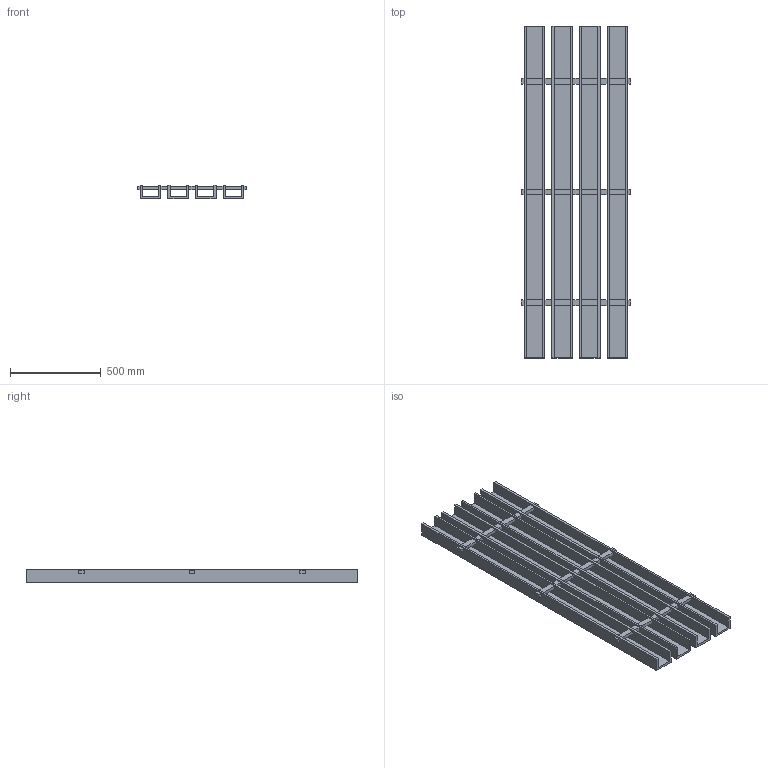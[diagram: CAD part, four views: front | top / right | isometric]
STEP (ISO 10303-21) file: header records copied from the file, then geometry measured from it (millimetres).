
FILE_DESCRIPTION(/* description */ (''),/* implementation_level */ '2;1');
FILE_NAME(/* name */ 'PET GRILLA_4.5x3_6ft',/* time_stamp */ '2024-10-15T14:22:13-05:00',/* author */ (''),/* organization */ (''),/* preprocessor_version */ 'ST-DEVELOPER v19.2',/* originating_system */ 'Rhino 8.4',/* authorisation */ '');
FILE_SCHEMA (('CONFIG_CONTROL_DESIGN'));
Length unit declared in the file: inch
Products named in the file (1): Document
Bounding box: 603.25 x 1828.8 x 76.2 mm (x, y, z)
Volume: 23327753.7 mm3; surface area: 3868137.4 mm2
Topology: 1 solids, 1 shells, 154 faces, 420 edges, 280 vertices
Faces by surface type: plane 154
Entity records: 4350 total; most frequent: CARTESIAN_POINT 1276, ORIENTED_EDGE 840, EDGE_CURVE 420, B_SPLINE_CURVE_WITH_KNOTS 420, VERTEX_POINT 280, EDGE_LOOP 202, DIRECTION 158, AXIS2_PLACEMENT_3D 156
